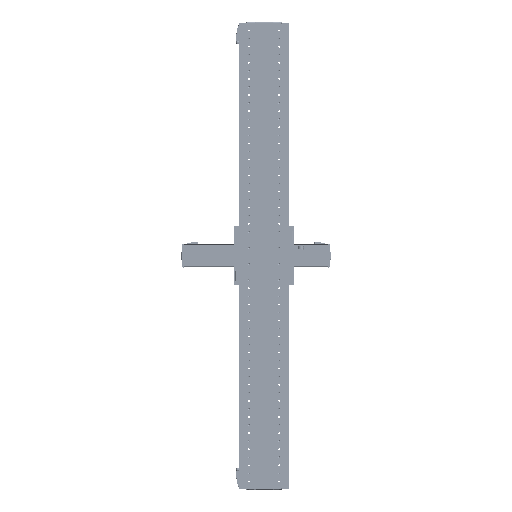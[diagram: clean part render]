
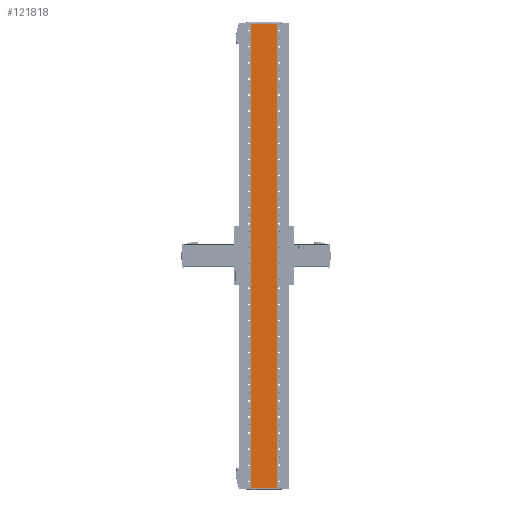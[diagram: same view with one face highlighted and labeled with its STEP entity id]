
A CAD part, front view. The second image highlights one B-rep face of the part: STEP entity #121818.
In plain terms, the highlighted planar face has unit normal (0, -1, 0).
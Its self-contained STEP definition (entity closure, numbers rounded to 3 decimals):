
#11380 = VERTEX_POINT ( 'NONE', #133935 ) ;
#17943 = VECTOR ( 'NONE', #88903, 1000. ) ;
#19122 = PLANE ( 'NONE',  #97058 ) ;
#32921 = DIRECTION ( 'NONE',  ( 0., -1., 0. ) ) ;
#33915 = DIRECTION ( 'NONE',  ( 0., 0., 1. ) ) ;
#34952 = LINE ( 'NONE', #84632, #76691 ) ;
#44638 = VECTOR ( 'NONE', #33915, 1000. ) ;
#47540 = DIRECTION ( 'NONE',  ( 0., 0., -1. ) ) ;
#59245 = ORIENTED_EDGE ( 'NONE', *, *, #61420, .F. ) ;
#61420 = EDGE_CURVE ( 'NONE', #144554, #143637, #87076, .T. ) ;
#61474 = EDGE_CURVE ( 'NONE', #11380, #156518, #34952, .T. ) ;
#70399 = FACE_OUTER_BOUND ( 'NONE', #89075, .T. ) ;
#71343 = EDGE_CURVE ( 'NONE', #144554, #11380, #112553, .T. ) ;
#75072 = CARTESIAN_POINT ( 'NONE',  ( 1153., 0.3, -32.75 ) ) ;
#76691 = VECTOR ( 'NONE', #147378, 1000. ) ;
#80196 = CARTESIAN_POINT ( 'NONE',  ( 0., 0.3, -32.75 ) ) ;
#84632 = CARTESIAN_POINT ( 'NONE',  ( 1153., 0.3, 32.75 ) ) ;
#85784 = ORIENTED_EDGE ( 'NONE', *, *, #71343, .T. ) ;
#87076 = LINE ( 'NONE', #122916, #113238 ) ;
#88903 = DIRECTION ( 'NONE',  ( 0., 0., 1. ) ) ;
#89075 = EDGE_LOOP ( 'NONE', ( #139494, #59245, #85784, #104606 ) ) ;
#97058 = AXIS2_PLACEMENT_3D ( 'NONE', #120890, #32921, #47540 ) ;
#104606 = ORIENTED_EDGE ( 'NONE', *, *, #61474, .T. ) ;
#112553 = LINE ( 'NONE', #75072, #17943 ) ;
#113238 = VECTOR ( 'NONE', #124554, 1000. ) ;
#120890 = CARTESIAN_POINT ( 'NONE',  ( 1153., 0.3, -32.75 ) ) ;
#121818 = ADVANCED_FACE ( 'NONE', ( #70399 ), #19122, .T. ) ;
#122501 = CARTESIAN_POINT ( 'NONE',  ( 1153., 0.3, -32.75 ) ) ;
#122916 = CARTESIAN_POINT ( 'NONE',  ( 1153., 0.3, -32.75 ) ) ;
#124554 = DIRECTION ( 'NONE',  ( -1., 0., 0. ) ) ;
#127465 = EDGE_CURVE ( 'NONE', #143637, #156518, #156175, .T. ) ;
#131711 = CARTESIAN_POINT ( 'NONE',  ( 0., 0.3, -32.75 ) ) ;
#133935 = CARTESIAN_POINT ( 'NONE',  ( 1153., 0.3, 32.75 ) ) ;
#139494 = ORIENTED_EDGE ( 'NONE', *, *, #127465, .F. ) ;
#143637 = VERTEX_POINT ( 'NONE', #80196 ) ;
#144554 = VERTEX_POINT ( 'NONE', #122501 ) ;
#147378 = DIRECTION ( 'NONE',  ( -1., 0., 0. ) ) ;
#148000 = CARTESIAN_POINT ( 'NONE',  ( 0., 0.3, 32.75 ) ) ;
#156175 = LINE ( 'NONE', #131711, #44638 ) ;
#156518 = VERTEX_POINT ( 'NONE', #148000 ) ;
